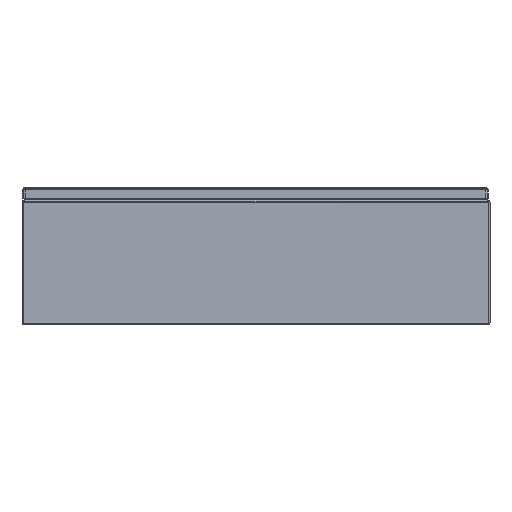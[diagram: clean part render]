
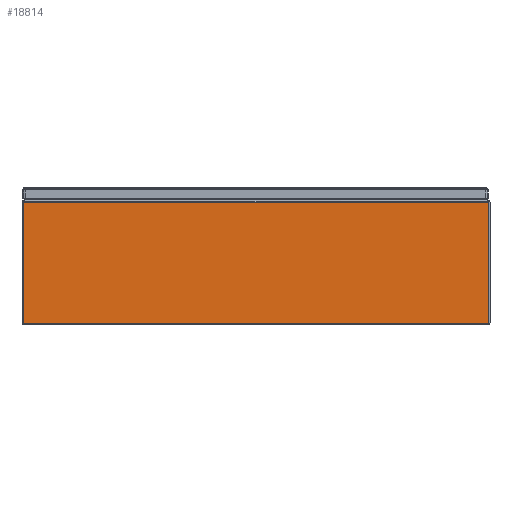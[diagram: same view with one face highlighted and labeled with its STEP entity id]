
A CAD part, front view. The second image highlights one B-rep face of the part: STEP entity #18814.
In plain terms, the highlighted planar face has unit normal (0, -1, 0).
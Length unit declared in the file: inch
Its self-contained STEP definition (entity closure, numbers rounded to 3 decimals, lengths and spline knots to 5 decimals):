
#12021 = EDGE_CURVE ( 'NONE', #31273, #31271, #52402, .T. ) ;
#12023 = EDGE_CURVE ( 'NONE', #31273, #31269, #52404, .T. ) ;
#12024 = EDGE_CURVE ( 'NONE', #31269, #31267, #52397, .T. ) ;
#12025 = EDGE_CURVE ( 'NONE', #31271, #31267, #52399, .T. ) ;
#18814 = ADVANCED_FACE ( 'NONE', ( #60683 ), #63927, .T. ) ;
#19654 = ORIENTED_EDGE ( 'NONE', *, *, #12024, .F. ) ;
#19655 = ORIENTED_EDGE ( 'NONE', *, *, #12023, .F. ) ;
#19656 = ORIENTED_EDGE ( 'NONE', *, *, #12021, .T. ) ;
#19657 = ORIENTED_EDGE ( 'NONE', *, *, #12025, .T. ) ;
#31267 = VERTEX_POINT ( 'NONE', #36513 ) ;
#31269 = VERTEX_POINT ( 'NONE', #36514 ) ;
#31271 = VERTEX_POINT ( 'NONE', #36515 ) ;
#31273 = VERTEX_POINT ( 'NONE', #36516 ) ;
#32282 = AXIS2_PLACEMENT_3D ( 'NONE', #63925, #63930, #63931 ) ;
#36513 = CARTESIAN_POINT ( 'NONE',  ( -14.921, 0., 0.08 ) ) ;
#36514 = CARTESIAN_POINT ( 'NONE',  ( 14.921, 0., 0.08 ) ) ;
#36515 = CARTESIAN_POINT ( 'NONE',  ( -14.921, 0., 7.838 ) ) ;
#36516 = CARTESIAN_POINT ( 'NONE',  ( 14.921, 0., 7.838 ) ) ;
#52397 = LINE ( 'NONE', #57212, #52406 ) ;
#52399 = LINE ( 'NONE', #57226, #52408 ) ;
#52401 = VECTOR ( 'NONE', #57220, 39.37008 ) ;
#52402 = LINE ( 'NONE', #57215, #52401 ) ;
#52403 = VECTOR ( 'NONE', #57225, 39.37008 ) ;
#52404 = LINE ( 'NONE', #57221, #52403 ) ;
#52406 = VECTOR ( 'NONE', #57227, 39.37008 ) ;
#52408 = VECTOR ( 'NONE', #57229, 39.37008 ) ;
#57212 = CARTESIAN_POINT ( 'NONE',  ( 15., 0., 0.08 ) ) ;
#57215 = CARTESIAN_POINT ( 'NONE',  ( 15., 0., 7.838 ) ) ;
#57220 = DIRECTION ( 'NONE',  ( -1., 0., 0. ) ) ;
#57221 = CARTESIAN_POINT ( 'NONE',  ( 14.921, 0., 0.08 ) ) ;
#57225 = DIRECTION ( 'NONE',  ( 0., 0., -1. ) ) ;
#57226 = CARTESIAN_POINT ( 'NONE',  ( -14.921, 0., 8.569 ) ) ;
#57227 = DIRECTION ( 'NONE',  ( -1., 0., 0. ) ) ;
#57229 = DIRECTION ( 'NONE',  ( 0., 0., -1. ) ) ;
#60683 = FACE_OUTER_BOUND ( 'NONE', #67905, .T. ) ;
#63925 = CARTESIAN_POINT ( 'NONE',  ( 15., 0., 0.08 ) ) ;
#63927 = PLANE ( 'NONE',  #32282 ) ;
#63930 = DIRECTION ( 'NONE',  ( 0., -1., 0. ) ) ;
#63931 = DIRECTION ( 'NONE',  ( 0., 0., -1. ) ) ;
#67905 = EDGE_LOOP ( 'NONE', ( #19654, #19655, #19656, #19657 ) ) ;
